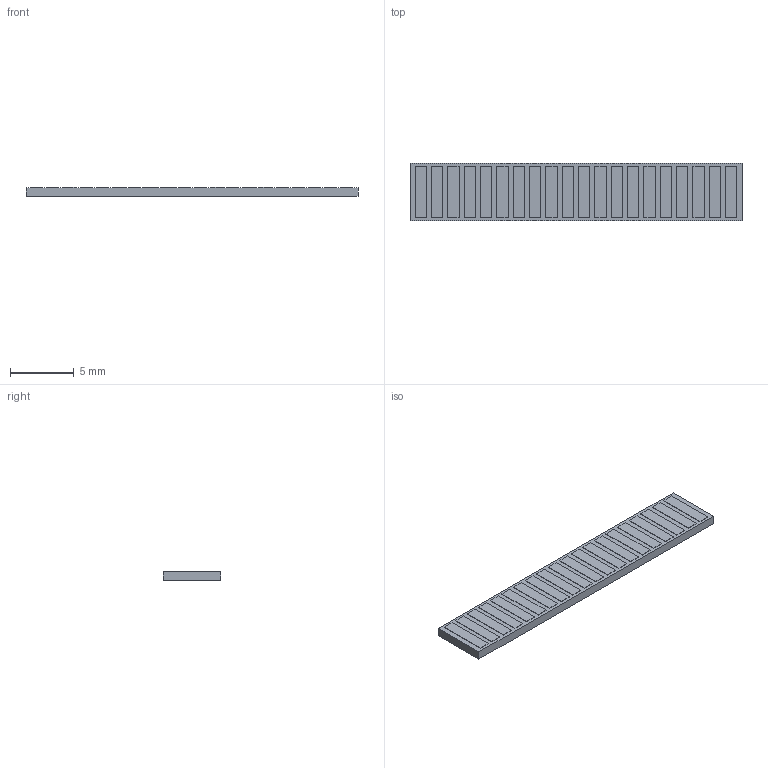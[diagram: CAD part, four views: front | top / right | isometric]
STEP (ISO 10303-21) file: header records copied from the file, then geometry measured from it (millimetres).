
FILE_DESCRIPTION (( 'STEP AP214' ), '1' );
FILE_NAME ('010462-MT067A_LZ20T1.STEP', '2021-12-10T15:06:50', ( '' ), ( '' ), 'SwSTEP 2.0', 'SolidWorks 2018', '' );
FILE_SCHEMA (( 'AUTOMOTIVE_DESIGN' ));
Length unit declared in the file: millimetre
Products named in the file (1): 010462-MT067A_LZ20T1
Bounding box: 26 x 4.5 x 0.77 mm (x, y, z)
Volume: 88.1 mm3; surface area: 285.6 mm2
Topology: 1 solids, 1 shells, 111 faces, 264 edges, 176 vertices
Faces by surface type: plane 111
Entity records: 4327 total; most frequent: CARTESIAN_POINT 552, ORIENTED_EDGE 528, DIRECTION 488, LINE 264, EDGE_CURVE 264, VECTOR 264, VERTEX_POINT 176, EDGE_LOOP 132
